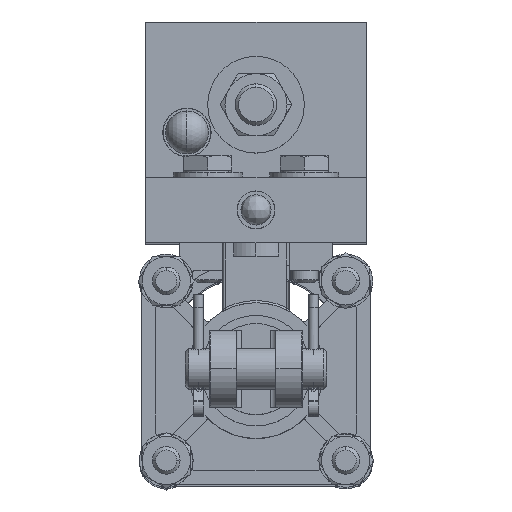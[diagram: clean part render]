
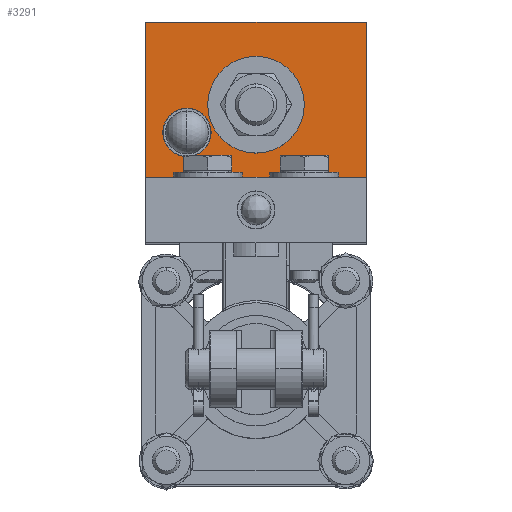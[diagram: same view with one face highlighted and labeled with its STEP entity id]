
A CAD part, top view. The second image highlights one B-rep face of the part: STEP entity #3291.
In plain terms, the highlighted planar face has unit normal (0, 0, 1).
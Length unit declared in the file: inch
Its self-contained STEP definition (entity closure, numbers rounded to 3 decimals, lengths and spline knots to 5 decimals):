
#352 = DIRECTION ( 'NONE',  ( 0., 0., 1. ) ) ;
#1719 = CARTESIAN_POINT ( 'NONE',  ( -0.84375, 2.158, 3.65625 ) ) ;
#2128 = DIRECTION ( 'NONE',  ( 0., 0., 1. ) ) ;
#2959 = EDGE_CURVE ( 'NONE', #29768, #34217, #43163, .T. ) ;
#3061 = CARTESIAN_POINT ( 'NONE',  ( -1., 3.158, 3.65625 ) ) ;
#3291 = ADVANCED_FACE ( 'NONE', ( #21993, #20872, #39790 ), #32162, .F. ) ;
#3416 = CARTESIAN_POINT ( 'NONE',  ( 0., 2.728, 3.65625 ) ) ;
#4154 = CARTESIAN_POINT ( 'NONE',  ( -1., 1.752, 3.65625 ) ) ;
#4499 = CARTESIAN_POINT ( 'NONE',  ( -1., 3.158, 3.65625 ) ) ;
#5497 = VERTEX_POINT ( 'NONE', #42521 ) ;
#5699 = CIRCLE ( 'NONE', #17562, 0.32 ) ;
#6233 = EDGE_CURVE ( 'NONE', #11676, #5497, #43304, .T. ) ;
#6465 = CARTESIAN_POINT ( 'NONE',  ( 1., 1.752, 3.65625 ) ) ;
#6552 = AXIS2_PLACEMENT_3D ( 'NONE', #21326, #352, #24845 ) ;
#7962 = ORIENTED_EDGE ( 'NONE', *, *, #43974, .F. ) ;
#8877 = CARTESIAN_POINT ( 'NONE',  ( -0.625, 2.158, 3.65625 ) ) ;
#8981 = ORIENTED_EDGE ( 'NONE', *, *, #2959, .F. ) ;
#9537 = ORIENTED_EDGE ( 'NONE', *, *, #10858, .T. ) ;
#10184 = AXIS2_PLACEMENT_3D ( 'NONE', #8877, #33615, #12420 ) ;
#10843 = VERTEX_POINT ( 'NONE', #1719 ) ;
#10858 = EDGE_CURVE ( 'NONE', #12225, #45102, #13301, .T. ) ;
#11676 = VERTEX_POINT ( 'NONE', #4499 ) ;
#11824 = DIRECTION ( 'NONE',  ( 0., -1., 0. ) ) ;
#12225 = VERTEX_POINT ( 'NONE', #4154 ) ;
#12420 = DIRECTION ( 'NONE',  ( 1., 0., 0. ) ) ;
#12570 = EDGE_CURVE ( 'NONE', #12225, #11676, #27461, .T. ) ;
#13301 = LINE ( 'NONE', #15945, #22647 ) ;
#14745 = CARTESIAN_POINT ( 'NONE',  ( -1., 3.158, 3.65625 ) ) ;
#15458 = CIRCLE ( 'NONE', #6552, 0.21875 ) ;
#15617 = DIRECTION ( 'NONE',  ( 0., 0., 1. ) ) ;
#15725 = CARTESIAN_POINT ( 'NONE',  ( 0., 2.408, 3.65625 ) ) ;
#15945 = CARTESIAN_POINT ( 'NONE',  ( -1., 1.752, 3.65625 ) ) ;
#17562 = AXIS2_PLACEMENT_3D ( 'NONE', #23118, #2128, #26663 ) ;
#18043 = VECTOR ( 'NONE', #39550, 39.37008 ) ;
#18084 = AXIS2_PLACEMENT_3D ( 'NONE', #30316, #30274, #30159 ) ;
#19465 = DIRECTION ( 'NONE',  ( 1., 0., 0. ) ) ;
#20394 = ORIENTED_EDGE ( 'NONE', *, *, #41961, .F. ) ;
#20405 = ORIENTED_EDGE ( 'NONE', *, *, #6233, .F. ) ;
#20872 = FACE_BOUND ( 'NONE', #26170, .T. ) ;
#21326 = CARTESIAN_POINT ( 'NONE',  ( -0.625, 2.158, 3.65625 ) ) ;
#21524 = CARTESIAN_POINT ( 'NONE',  ( -0.40625, 2.158, 3.65625 ) ) ;
#21993 = FACE_OUTER_BOUND ( 'NONE', #29528, .T. ) ;
#22187 = CARTESIAN_POINT ( 'NONE',  ( 1., 3.158, 3.65625 ) ) ;
#22647 = VECTOR ( 'NONE', #19465, 39.37008 ) ;
#23118 = CARTESIAN_POINT ( 'NONE',  ( 0., 2.408, 3.65625 ) ) ;
#24378 = VECTOR ( 'NONE', #44005, 39.37008 ) ;
#24845 = DIRECTION ( 'NONE',  ( 1., 0., 0. ) ) ;
#25718 = DIRECTION ( 'NONE',  ( 0., 1., 0. ) ) ;
#26108 = LINE ( 'NONE', #22187, #43896 ) ;
#26170 = EDGE_LOOP ( 'NONE', ( #8981, #32694 ) ) ;
#26359 = VERTEX_POINT ( 'NONE', #21524 ) ;
#26663 = DIRECTION ( 'NONE',  ( 0., -1., 0. ) ) ;
#26753 = EDGE_LOOP ( 'NONE', ( #20394, #7962 ) ) ;
#26956 = AXIS2_PLACEMENT_3D ( 'NONE', #15725, #15617, #11824 ) ;
#27461 = LINE ( 'NONE', #14745, #18043 ) ;
#29528 = EDGE_LOOP ( 'NONE', ( #20405, #31044, #9537, #38824 ) ) ;
#29768 = VERTEX_POINT ( 'NONE', #30660 ) ;
#30159 = DIRECTION ( 'NONE',  ( -1., 0., 0. ) ) ;
#30274 = DIRECTION ( 'NONE',  ( 0., 0., -1. ) ) ;
#30316 = CARTESIAN_POINT ( 'NONE',  ( -1., 3.158, 3.65625 ) ) ;
#30328 = EDGE_CURVE ( 'NONE', #34217, #29768, #5699, .T. ) ;
#30660 = CARTESIAN_POINT ( 'NONE',  ( 0., 2.088, 3.65625 ) ) ;
#31044 = ORIENTED_EDGE ( 'NONE', *, *, #12570, .F. ) ;
#32162 = PLANE ( 'NONE',  #18084 ) ;
#32694 = ORIENTED_EDGE ( 'NONE', *, *, #30328, .F. ) ;
#33615 = DIRECTION ( 'NONE',  ( 0., 0., 1. ) ) ;
#34217 = VERTEX_POINT ( 'NONE', #3416 ) ;
#38665 = EDGE_CURVE ( 'NONE', #45102, #5497, #26108, .T. ) ;
#38824 = ORIENTED_EDGE ( 'NONE', *, *, #38665, .T. ) ;
#39550 = DIRECTION ( 'NONE',  ( 0., 1., 0. ) ) ;
#39790 = FACE_BOUND ( 'NONE', #26753, .T. ) ;
#41961 = EDGE_CURVE ( 'NONE', #26359, #10843, #15458, .T. ) ;
#42521 = CARTESIAN_POINT ( 'NONE',  ( 1., 3.158, 3.65625 ) ) ;
#43163 = CIRCLE ( 'NONE', #26956, 0.32 ) ;
#43304 = LINE ( 'NONE', #3061, #24378 ) ;
#43896 = VECTOR ( 'NONE', #25718, 39.37008 ) ;
#43974 = EDGE_CURVE ( 'NONE', #10843, #26359, #45071, .T. ) ;
#44005 = DIRECTION ( 'NONE',  ( 1., 0., 0. ) ) ;
#45071 = CIRCLE ( 'NONE', #10184, 0.21875 ) ;
#45102 = VERTEX_POINT ( 'NONE', #6465 ) ;
